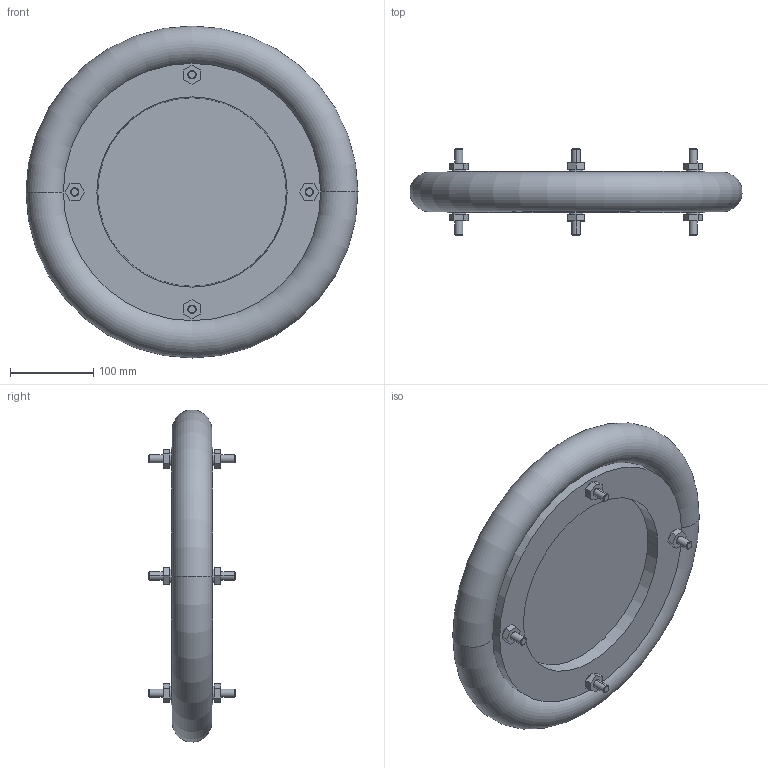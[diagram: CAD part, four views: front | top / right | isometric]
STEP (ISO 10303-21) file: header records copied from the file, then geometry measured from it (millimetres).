
FILE_DESCRIPTION((''),'2;1');
FILE_NAME('R412020589_MIN','2023-08-01T17:28:21',('VAU3HC'),(''),'CREO PARAMETRIC BY PTC INC, 2020044','CREO PARAMETRIC BY PTC INC, 2020044','');
FILE_SCHEMA(('CONFIG_CONTROL_DESIGN','SHAPE_APPEARANCE_LAYERS_GROUPS'));
Length unit declared in the file: millimetre
Products named in the file (1): R412020589_MIN
Bounding box: 399.82 x 104 x 399.82 mm (x, y, z)
Volume: 3935355.1 mm3; surface area: 450722 mm2
Topology: 1 solids, 1 shells, 143 faces, 316 edges, 204 vertices
Faces by surface type: plane 79, cylinder 42, cone 20, torus 2
Entity records: 6561 total; most frequent: DIRECTION 712, CARTESIAN_POINT 663, ORIENTED_EDGE 632, PRESENTATION_STYLE_ASSIGNMENT 451, STYLED_ITEM 317, CURVE_STYLE 316, EDGE_CURVE 316, FILL_AREA_STYLE_COLOUR 269
